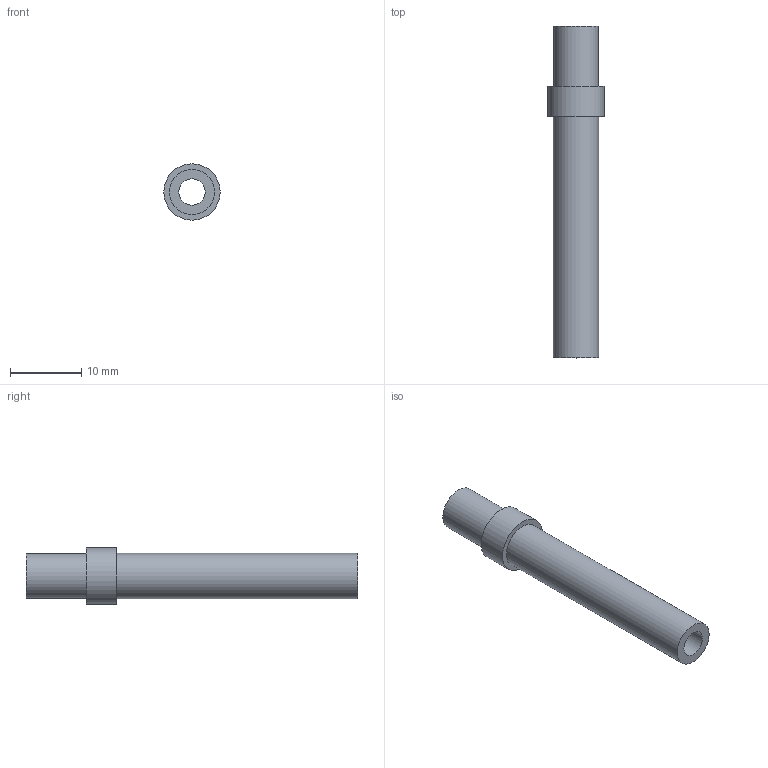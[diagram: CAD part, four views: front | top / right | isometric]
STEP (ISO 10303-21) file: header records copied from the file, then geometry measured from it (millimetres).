
FILE_DESCRIPTION(/* description */ ('STEP AP242 Edition 2','CAx-IF Rec.Pracs.---Representation and Presentation of Product Manufacturing Information (PMI)---4.0---2014-10-13','CAx-IF Rec.Pracs.---3D Tessellated Geometry---0.4---2014-09-14','2;1','CAx-IF Rec.Pracs.---User Defined Attributes---1.5---2016-08-15'),/* implementation_level */ '2;1');
FILE_NAME(/* name */ 'Main - Wheel Shaft',/* time_stamp */ '2026-09-13T15:50:02Z',/* author */ (''),/* organization */ (''),/* preprocessor_version */ 'ST-DEVELOPER v20',/* originating_system */ 'ONSHAPE BY PTC INC, 1.220',/* authorisation */ ' ');
FILE_SCHEMA (('AP242_MANAGED_MODEL_BASED_3D_ENGINEERING_MIM_LF { 1 0 10303 442 3 1 4 }'));
Length unit declared in the file: metre
Products named in the file (1): Wheel Shaft
Bounding box: 7.94 x 46.74 x 7.94 mm (x, y, z)
Volume: 1040.5 mm3; surface area: 1572 mm2
Topology: 1 solids, 1 shells, 8 faces, 14 edges, 10 vertices
Faces by surface type: cylinder 4, plane 4
Full cylindrical faces by diameter (mm): 3.708 x1, 6.223 x1, 6.35 x1, 7.938 x1
Entity records: 190 total; most frequent: DIRECTION 34, CARTESIAN_POINT 25, AXIS2_PLACEMENT_3D 17, ORIENTED_EDGE 16, EDGE_LOOP 16, FACE_BOUND 16, EDGE_CURVE 8, VERTEX_POINT 8
